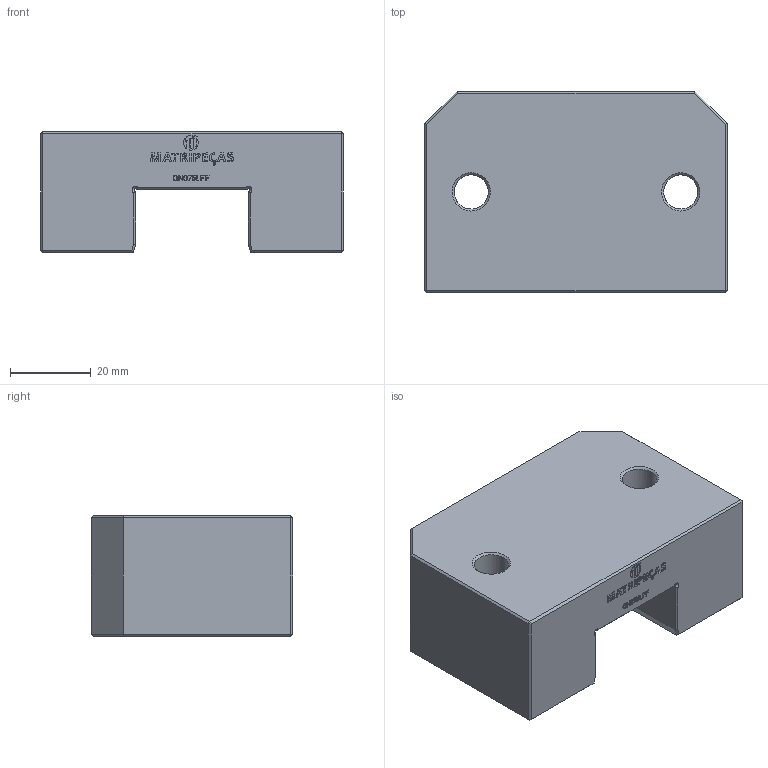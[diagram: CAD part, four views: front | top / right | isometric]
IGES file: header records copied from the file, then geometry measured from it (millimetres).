
Start section: C
Global section: file name: CN075LFF01.igs; native system: By Siemens PLM Incorporated; preprocessor: XPlus GENERIC/IGES 18.0.17; author: Author; organization: Title; date: 20240725.134954; units: millimetre
Bounding box: 75 x 50 x 30 mm (x, y, z)
Volume: 83559.7 mm3; surface area: 16798 mm2
Topology: 1 solids, 1 shells, 300 faces, 779 edges, 508 vertices
Faces by surface type: bspline 300
